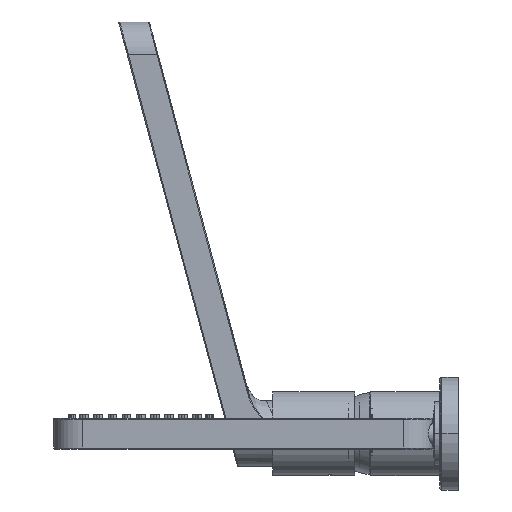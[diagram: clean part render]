
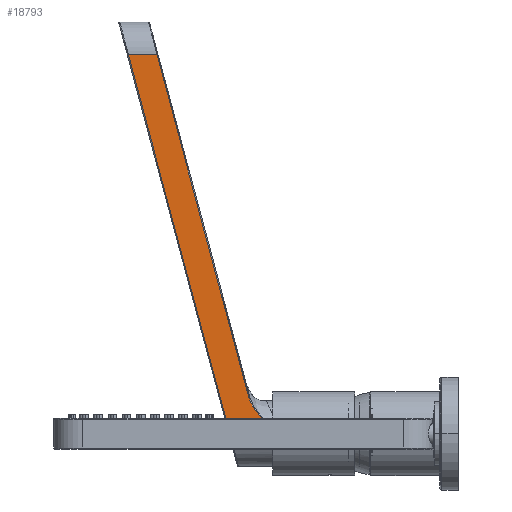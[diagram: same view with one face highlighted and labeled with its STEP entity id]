
A CAD part, left-side view. The second image highlights one B-rep face of the part: STEP entity #18793.
In plain terms, the highlighted planar face has unit normal (-1, 0, 0).
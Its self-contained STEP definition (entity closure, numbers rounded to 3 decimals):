
#15972=DIRECTION('',(0.,-0.259,-0.966));
#15973=VECTOR('',#15972,191.526);
#15974=CARTESIAN_POINT('',(-16.,84.053,
185.));
#15975=LINE('',#15974,#15973);
#15976=DIRECTION('',(0.,1.,0.));
#15977=VECTOR('',#15976,13.965);
#15978=CARTESIAN_POINT('',(-16.,70.088,
185.));
#15979=LINE('',#15978,#15977);
#15980=DIRECTION('',(0.,-0.259,-0.966));
#15981=VECTOR('',#15980,172.728);
#15982=CARTESIAN_POINT('',(-16.,70.088,
185.));
#15983=LINE('',#15982,#15981);
#15984=CARTESIAN_POINT('',(-16.,25.383,
18.157));
#15985=CARTESIAN_POINT('',(-16.,25.207,
17.5));
#15986=CARTESIAN_POINT('',(-16.,24.772,
16.178));
#15987=CARTESIAN_POINT('',(-16.,23.753,14.017));
#15988=CARTESIAN_POINT('',(-16.,22.608,12.166));
#15989=CARTESIAN_POINT('',(-16.,21.487,
10.633));
#15990=CARTESIAN_POINT('',(-16.,20.424,
9.346));
#15991=CARTESIAN_POINT('',(-16.,19.298,
8.116));
#15992=CARTESIAN_POINT('',(-16.,18.087,
6.905));
#15993=CARTESIAN_POINT('',(-16.,16.791,
5.706));
#15994=CARTESIAN_POINT('',(-16.,15.346,
4.456));
#15995=CARTESIAN_POINT('',(-16.,13.932,
3.304));
#15996=CARTESIAN_POINT('',(-16.,12.701,
2.338));
#15997=CARTESIAN_POINT('',(-16.,11.587,
1.48));
#15998=CARTESIAN_POINT('',(-16.,10.579,
0.71));
#15999=CARTESIAN_POINT('',(-16.,9.949,
0.23));
#16000=CARTESIAN_POINT('',(-16.,9.647,
0.));
#16028=DIRECTION('',(0.,1.,0.));
#16029=VECTOR('',#16028,24.835);
#16030=CARTESIAN_POINT('',(-16.,9.647,
0.));
#16031=LINE('',#16030,#16029);
#18107=CARTESIAN_POINT('',(-16.,84.053,
185.));
#18108=CARTESIAN_POINT('',(-16.,34.482,
0.));
#18109=VERTEX_POINT('',#18107);
#18110=VERTEX_POINT('',#18108);
#18117=VERTEX_POINT('',#15984);
#18118=VERTEX_POINT('',#16000);
#18122=CARTESIAN_POINT('',(-16.,70.088,
185.));
#18123=VERTEX_POINT('',#18122);
#18777=CARTESIAN_POINT('',(-16.,75.,0.));
#18778=DIRECTION('',(1.,0.,0.));
#18779=DIRECTION('',(0.,0.,-1.));
#18780=AXIS2_PLACEMENT_3D('',#18777,#18778,#18779);
#18781=PLANE('',#18780);
#18783=ORIENTED_EDGE('',*,*,#18782,.F.);
#18785=ORIENTED_EDGE('',*,*,#18784,.F.);
#18787=ORIENTED_EDGE('',*,*,#18786,.T.);
#18788=ORIENTED_EDGE('',*,*,#18769,.T.);
#18790=ORIENTED_EDGE('',*,*,#18789,.T.);
#18791=EDGE_LOOP('',(#18783,#18785,#18787,#18788,#18790));
#18792=FACE_OUTER_BOUND('',#18791,.F.);
#18793=ADVANCED_FACE('',(#18792),#18781,.F.);
#16001=B_SPLINE_CURVE_WITH_KNOTS('',3,(#15984,#15985,#15986,#15987,#15988,
#15989,#15990,#15991,#15992,#15993,#15994,#15995,#15996,#15997,#15998,#15999,
#16000),.UNSPECIFIED.,.F.,.F.,(4,1,1,1,1,1,1,1,1,1,1,1,1,1,4),(0.,
0.071,0.143,0.214,0.286,
0.357,0.429,0.5,0.571,0.643,
0.714,0.786,0.857,0.929,1.),
.UNSPECIFIED.);
#18769=EDGE_CURVE('',#18117,#18118,#16001,.T.);
#18782=EDGE_CURVE('',#18109,#18110,#15975,.T.);
#18784=EDGE_CURVE('',#18123,#18109,#15979,.T.);
#18786=EDGE_CURVE('',#18123,#18117,#15983,.T.);
#18789=EDGE_CURVE('',#18118,#18110,#16031,.T.);
